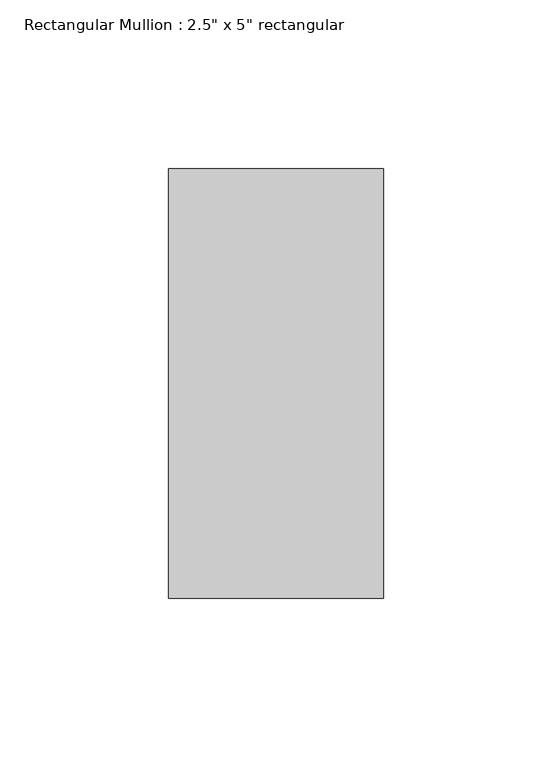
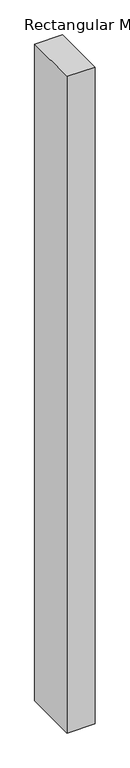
"""IFC4 building model written with IfcOpenShell, lengths in millimetres: member geometry."""

from ifc_helpers import new_model, si_unit, frame, origin, place, context, project, spatial, polyline, outline, extrude, source, transform, mapped, element, save


def member_591cd9a7(model_context):
    return source(origin(), model_context, "Body", "SweptSolid", [
        extrude(outline(polyline([(31.75, 63.5), (31.75, -63.5), (-31.75, -63.5), (-31.75, 63.5), (31.75, 63.5)])), frame((0.0, 0.0, -1574.8), z_axis=(0.0, 0.0, 1.0), x_axis=(1.0, 0.0, 0.0)), (0.0, 0.0, 1.0), 1574.8),
    ])


if __name__ == "__main__":
    model = new_model("IFC4")
    model_context = context("Model", 3, world=origin())
    ifc_project = project(units=[si_unit("LENGTHUNIT", "METRE", prefix="MILLI")], contexts=[model_context])
    site = spatial("IfcSite", under=ifc_project)
    building = spatial("IfcBuilding", under=site)
    placement = place(None, origin())
    member_shape = member_591cd9a7(model_context)
    element("IfcMember", 1, ObjectType="Rectangular Mullion : 2.5\" x 5\" rectangular", at=placement, inside=building, context=model_context, shape_type="MappedRepresentation", body=[
        mapped(member_shape, transform((0.0, 0.0, 0.0), x_axis=(1.0, 0.0, 0.0), y_axis=(0.0, 1.0, 0.0), z_axis=(0.0, 0.0, 1.0))),
    ])
    save(model, "model.ifc")
